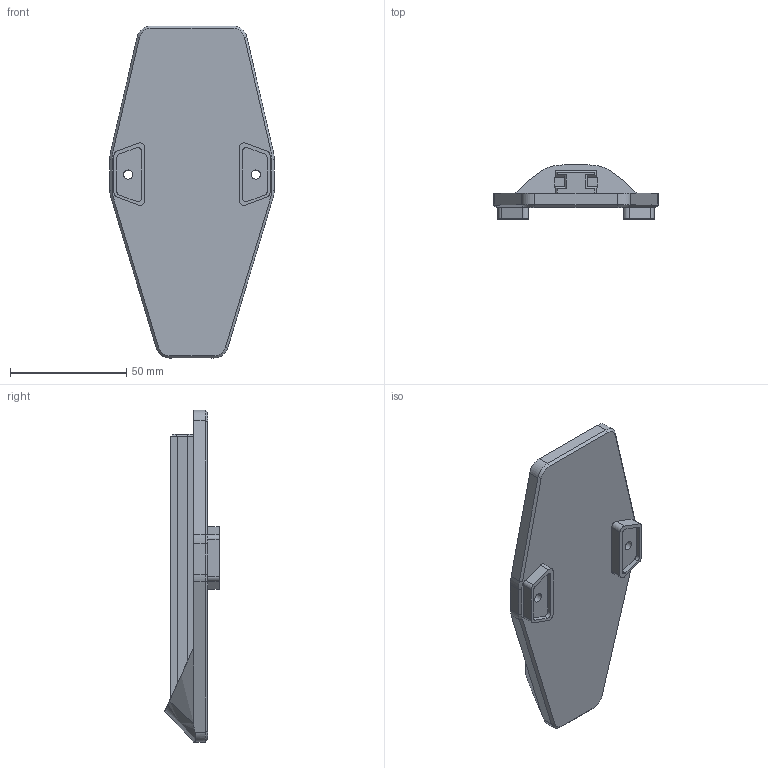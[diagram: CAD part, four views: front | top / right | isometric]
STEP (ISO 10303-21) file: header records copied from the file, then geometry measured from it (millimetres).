
FILE_DESCRIPTION(('HOOPS Exchange Step'),'2;1');
FILE_NAME('/private/var/mobile/Containers/Data/Application/90C05819-CB43-49CD-8FF6-5EA1F08262E4/tmp/export/temp_export','2026-05-22T13:31:26-05:00',('mobile'),('Shapr3D Limited'),'HOOPS Exchange 2025.9','Shapr3D','Authorized');
FILE_SCHEMA( ('AP242_MANAGED_MODEL_BASED_3D_ENGINEERING_MIM_LF {1 0 10303 442 1 1 4}') );
Length unit declared in the file: millimetre
Products named in the file (5): Stock; Done; Stock Plate.step; Back; root
Assembly tree (4 placements, depth 5):
  root
    Back
      Stock Plate.step
        Done
          Stock
Bounding box: 70.78 x 23.41 x 143 mm (x, y, z)
Volume: 71023.9 mm3; surface area: 24389.2 mm2
Topology: 1 solids, 1 shells, 120 faces, 313 edges, 202 vertices
Faces by surface type: plane 74, cylinder 34, cone 8, bspline 4
Full cylindrical faces by diameter (mm): 4 x2, 5.5 x2, 8 x2
Entity records: 4154 total; most frequent: CARTESIAN_POINT 1052, ORIENTED_EDGE 626, DIRECTION 619, EDGE_CURVE 313, VECTOR 219, LINE 219, VERTEX_POINT 202, AXIS2_PLACEMENT_3D 200
